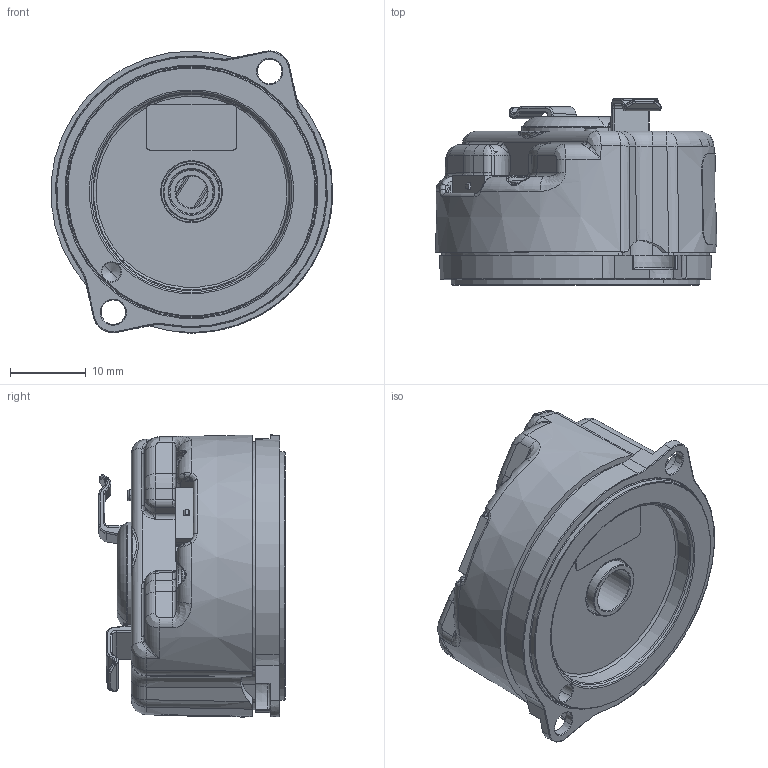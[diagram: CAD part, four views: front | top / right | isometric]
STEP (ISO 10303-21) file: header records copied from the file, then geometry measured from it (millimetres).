
FILE_DESCRIPTION((''),'2;1');
FILE_NAME('AM34Z0G_E2545052','2025-04-10T',('heinz.weber'),(''),'CREO PARAMETRIC BY PTC INC, 2018360','CREO PARAMETRIC BY PTC INC, 2018360','');
FILE_SCHEMA(('AUTOMOTIVE_DESIGN { 1 0 10303 214 1 1 1 1 }'));
Products named in the file (1): AM34Z0G_E2545052
Bounding box: 37.26 x 24.65 x 37.35 mm (x, y, z)
Volume: 17870 mm3; surface area: 6313.4 mm2
Topology: 1 solids, 1 shells, 2506 faces, 6874 edges, 4303 vertices
Faces by surface type: plane 1311, cylinder 631, torus 209, bspline 177, cone 102, sphere 76
Entity records: 113401 total; most frequent: CARTESIAN_POINT 34858, ORIENTED_EDGE 13748, DIRECTION 12281, EDGE_CURVE 6874, VERTEX_POINT 4303, VECTOR 4159, LINE 4159, AXIS2_PLACEMENT_3D 4061
